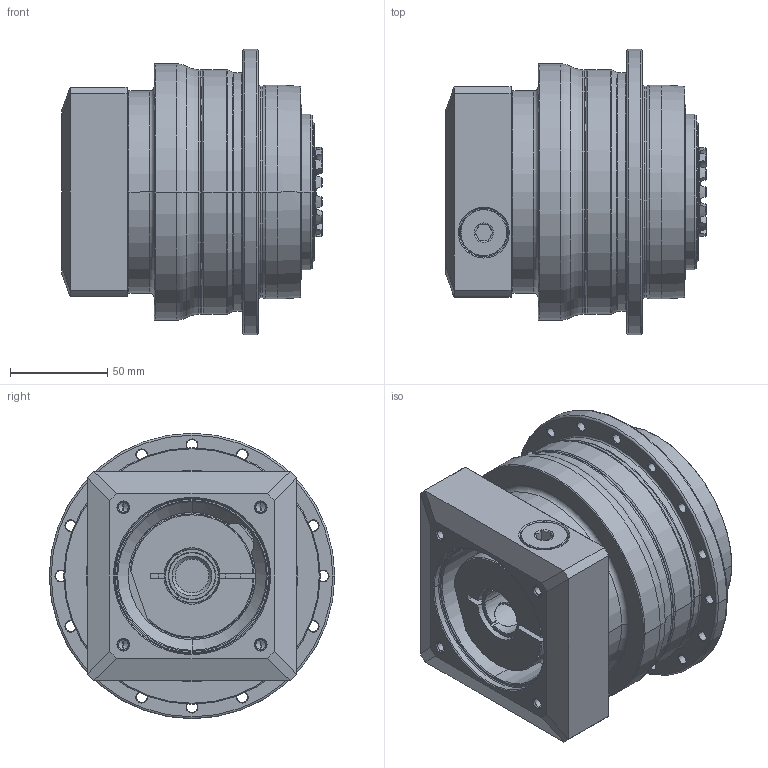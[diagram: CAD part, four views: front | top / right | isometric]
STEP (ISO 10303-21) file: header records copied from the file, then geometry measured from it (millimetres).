
FILE_DESCRIPTION((''),'2;1');
FILE_NAME('APC110_1ST_24-P0409510201_ASM','2018-06-08T',('d01226'),(''),'PRO/ENGINEER BY PARAMETRIC TECHNOLOGY CORPORATION, 2008410','PRO/ENGINEER BY PARAMETRIC TECHNOLOGY CORPORATION, 2008410','');
FILE_SCHEMA(('CONFIG_CONTROL_DESIGN'));
Length unit declared in the file: millimetre
Products named in the file (9): P0278400003; P03594C0103; P1318410101; P0503500010; P0912451001; P1211400001; P0409510201; 21711418017; APC110_1ST_24-P0409510201_ASM
Assembly tree (8 placements, depth 2):
  APC110_1ST_24-P0409510201_ASM
    P0278400003
    P03594C0103
    P1318410101
    P0503500010
    P0912451001
    P1211400001
    P0409510201
    21711418017
Bounding box: 133.9 x 147 x 147 mm (x, y, z)
Volume: 1346602.2 mm3; surface area: 225476.1 mm2
Topology: 9 solids, 20 shells, 615 faces, 1480 edges, 905 vertices
Faces by surface type: cylinder 195, cone 189, plane 119, torus 98, bspline 14
Entity records: 23449 total; most frequent: CARTESIAN_POINT 8766, DIRECTION 3273, ORIENTED_EDGE 2882, EDGE_CURVE 1462, AXIS2_PLACEMENT_3D 1422, VERTEX_POINT 905, CIRCLE 794, EDGE_LOOP 701
